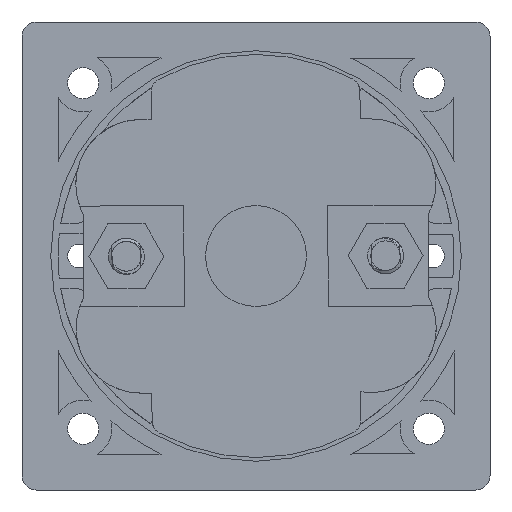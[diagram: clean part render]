
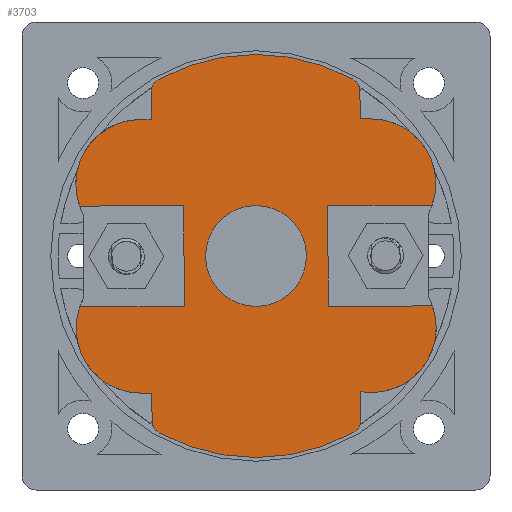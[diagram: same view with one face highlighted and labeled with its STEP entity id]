
A CAD part, front view. The second image highlights one B-rep face of the part: STEP entity #3703.
In plain terms, the highlighted planar face has unit normal (0, -1, 0).
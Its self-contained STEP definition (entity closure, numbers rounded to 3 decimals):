
#684=FACE_BOUND('',#8037,.T.);
#685=FACE_BOUND('',#8038,.T.);
#3703=ADVANCED_FACE('',(#684,#685),#4820,.F.);
#4820=PLANE('',#32896);
#8037=EDGE_LOOP('',(#16888,#16889,#16890,#16891,#16892,#16893,#16894,#16895,
#16896,#16897,#16898,#16899,#16900,#16901,#16902,#16903,#16904,#16905,#16906,
#16907,#16908,#16909,#16910,#16911,#16912));
#8038=EDGE_LOOP('',(#16913));
#8461=CIRCLE('',#30743,2.);
#8463=CIRCLE('',#30746,28.);
#8466=CIRCLE('',#30750,2.);
#8469=CIRCLE('',#30759,2.);
#8471=CIRCLE('',#30762,28.);
#8474=CIRCLE('',#30766,2.);
#9375=CIRCLE('',#32796,9.);
#9378=CIRCLE('',#32802,9.);
#9379=CIRCLE('',#32805,9.);
#9381=CIRCLE('',#32809,8.96);
#9383=CIRCLE('',#32813,9.);
#9403=CIRCLE('',#32886,7.);
#16888=ORIENTED_EDGE('',*,*,#25474,.F.);
#16889=ORIENTED_EDGE('',*,*,#25035,.T.);
#16890=ORIENTED_EDGE('',*,*,#25038,.T.);
#16891=ORIENTED_EDGE('',*,*,#21982,.T.);
#16892=ORIENTED_EDGE('',*,*,#21981,.T.);
#16893=ORIENTED_EDGE('',*,*,#21977,.T.);
#16894=ORIENTED_EDGE('',*,*,#21974,.T.);
#16895=ORIENTED_EDGE('',*,*,#21945,.T.);
#16896=ORIENTED_EDGE('',*,*,#25041,.T.);
#16897=ORIENTED_EDGE('',*,*,#25044,.T.);
#16898=ORIENTED_EDGE('',*,*,#25047,.T.);
#16899=ORIENTED_EDGE('',*,*,#25481,.F.);
#16900=ORIENTED_EDGE('',*,*,#25476,.F.);
#16901=ORIENTED_EDGE('',*,*,#25482,.F.);
#16902=ORIENTED_EDGE('',*,*,#25021,.T.);
#16903=ORIENTED_EDGE('',*,*,#25024,.T.);
#16904=ORIENTED_EDGE('',*,*,#21903,.T.);
#16905=ORIENTED_EDGE('',*,*,#21902,.T.);
#16906=ORIENTED_EDGE('',*,*,#21898,.T.);
#16907=ORIENTED_EDGE('',*,*,#21895,.T.);
#16908=ORIENTED_EDGE('',*,*,#21865,.T.);
#16909=ORIENTED_EDGE('',*,*,#25026,.T.);
#16910=ORIENTED_EDGE('',*,*,#25030,.T.);
#16911=ORIENTED_EDGE('',*,*,#25473,.F.);
#16912=ORIENTED_EDGE('',*,*,#25468,.F.);
#16913=ORIENTED_EDGE('',*,*,#25467,.F.);
#18817=VERTEX_POINT('',#41596);
#18818=VERTEX_POINT('',#41598);
#18843=VERTEX_POINT('',#41651);
#18846=VERTEX_POINT('',#41659);
#18848=VERTEX_POINT('',#41665);
#18851=VERTEX_POINT('',#41673);
#18885=VERTEX_POINT('',#41758);
#18886=VERTEX_POINT('',#41760);
#18911=VERTEX_POINT('',#41812);
#18914=VERTEX_POINT('',#41820);
#18916=VERTEX_POINT('',#41826);
#18919=VERTEX_POINT('',#41834);
#20922=VERTEX_POINT('',#106243);
#20923=VERTEX_POINT('',#106245);
#20925=VERTEX_POINT('',#106253);
#20928=VERTEX_POINT('',#106261);
#20931=VERTEX_POINT('',#106277);
#20932=VERTEX_POINT('',#106279);
#20935=VERTEX_POINT('',#106295);
#20937=VERTEX_POINT('',#106307);
#20939=VERTEX_POINT('',#106313);
#21227=VERTEX_POINT('',#134694);
#21228=VERTEX_POINT('',#134697);
#21229=VERTEX_POINT('',#134698);
#21232=VERTEX_POINT('',#134713);
#21233=VERTEX_POINT('',#134714);
#21865=EDGE_CURVE('',#18818,#18817,#26342,.T.);
#21895=EDGE_CURVE('',#18843,#18818,#8461,.T.);
#21898=EDGE_CURVE('',#18846,#18843,#8463,.T.);
#21902=EDGE_CURVE('',#18848,#18846,#8466,.T.);
#21903=EDGE_CURVE('',#18851,#18848,#26372,.T.);
#21945=EDGE_CURVE('',#18886,#18885,#26412,.T.);
#21974=EDGE_CURVE('',#18911,#18886,#8469,.T.);
#21977=EDGE_CURVE('',#18914,#18911,#8471,.T.);
#21981=EDGE_CURVE('',#18916,#18914,#8474,.T.);
#21982=EDGE_CURVE('',#18919,#18916,#26441,.T.);
#25021=EDGE_CURVE('',#20923,#20922,#9375,.T.);
#25024=EDGE_CURVE('',#20922,#18851,#27925,.T.);
#25026=EDGE_CURVE('',#18817,#20925,#27927,.T.);
#25030=EDGE_CURVE('',#20925,#20928,#9378,.T.);
#25035=EDGE_CURVE('',#20932,#20931,#9379,.T.);
#25038=EDGE_CURVE('',#20931,#18919,#27933,.T.);
#25041=EDGE_CURVE('',#18885,#20935,#9381,.T.);
#25044=EDGE_CURVE('',#20935,#20937,#27934,.T.);
#25047=EDGE_CURVE('',#20937,#20939,#9383,.T.);
#25467=EDGE_CURVE('',#21227,#21227,#9403,.T.);
#25468=EDGE_CURVE('',#21228,#21229,#28087,.T.);
#25473=EDGE_CURVE('',#21229,#20928,#28092,.T.);
#25474=EDGE_CURVE('',#20932,#21228,#28093,.T.);
#25476=EDGE_CURVE('',#21232,#21233,#28095,.T.);
#25481=EDGE_CURVE('',#21233,#20939,#28100,.T.);
#25482=EDGE_CURVE('',#20923,#21232,#28101,.T.);
#26342=LINE('',#41597,#28551);
#26372=LINE('',#41672,#28581);
#26412=LINE('',#41759,#28621);
#26441=LINE('',#41833,#28650);
#27925=LINE('',#106250,#30134);
#27927=LINE('',#106254,#30136);
#27933=LINE('',#106284,#30142);
#27934=LINE('',#106308,#30143);
#28087=LINE('',#134696,#30296);
#28092=LINE('',#134706,#30301);
#28093=LINE('',#134708,#30302);
#28095=LINE('',#134712,#30304);
#28100=LINE('',#134722,#30309);
#28101=LINE('',#134724,#30310);
#28551=VECTOR('',#33637,1.);
#28581=VECTOR('',#33691,1.);
#28621=VECTOR('',#33739,1.);
#28650=VECTOR('',#33792,1.);
#30134=VECTOR('',#39338,1.);
#30136=VECTOR('',#39342,1.);
#30142=VECTOR('',#39364,1.);
#30143=VECTOR('',#39371,1.);
#30296=VECTOR('',#39678,1.);
#30301=VECTOR('',#39685,1.);
#30302=VECTOR('',#39688,1.);
#30304=VECTOR('',#39694,1.);
#30309=VECTOR('',#39701,1.);
#30310=VECTOR('',#39704,1.);
#30743=AXIS2_PLACEMENT_3D('',#41656,#33671,#33672);
#30746=AXIS2_PLACEMENT_3D('',#41662,#33678,#33679);
#30750=AXIS2_PLACEMENT_3D('',#41670,#33687,#33688);
#30759=AXIS2_PLACEMENT_3D('',#41817,#33772,#33773);
#30762=AXIS2_PLACEMENT_3D('',#41823,#33779,#33780);
#30766=AXIS2_PLACEMENT_3D('',#41831,#33788,#33789);
#32796=AXIS2_PLACEMENT_3D('',#106244,#39331,#39332);
#32802=AXIS2_PLACEMENT_3D('',#106262,#39349,#39350);
#32805=AXIS2_PLACEMENT_3D('',#106278,#39357,#39358);
#32809=AXIS2_PLACEMENT_3D('',#106296,#39367,#39368);
#32813=AXIS2_PLACEMENT_3D('',#106314,#39377,#39378);
#32886=AXIS2_PLACEMENT_3D('',#134693,#39674,#39675);
#32896=AXIS2_PLACEMENT_3D('',#134728,#39710,#39711);
#33637=DIRECTION('',(0.003,0.,-1.));
#33671=DIRECTION('',(0.,-1.,0.));
#33672=DIRECTION('',(1.,0.,0.003));
#33678=DIRECTION('',(0.,-1.,0.));
#33679=DIRECTION('',(1.,0.,0.003));
#33687=DIRECTION('',(0.,-1.,0.));
#33688=DIRECTION('',(1.,0.,0.003));
#33691=DIRECTION('',(-0.003,0.,1.));
#33739=DIRECTION('',(-0.003,0.,1.));
#33772=DIRECTION('',(0.,-1.,0.));
#33773=DIRECTION('',(1.,0.,0.003));
#33779=DIRECTION('',(0.,-1.,0.));
#33780=DIRECTION('',(1.,0.,0.003));
#33788=DIRECTION('',(0.,-1.,0.));
#33789=DIRECTION('',(1.,0.,0.003));
#33792=DIRECTION('',(0.003,0.,-1.));
#39331=DIRECTION('',(0.,-1.,0.));
#39332=DIRECTION('',(1.,0.,0.003));
#39338=DIRECTION('',(-1.,0.,-0.003));
#39342=DIRECTION('',(-1.,0.,-0.003));
#39349=DIRECTION('',(0.,-1.,0.));
#39350=DIRECTION('',(-1.,0.,-0.003));
#39357=DIRECTION('',(0.,-1.,0.));
#39358=DIRECTION('',(-0.89,0.,0.456));
#39364=DIRECTION('',(1.,0.,0.003));
#39367=DIRECTION('',(0.,-1.,0.));
#39368=DIRECTION('',(0.,0.,-1.));
#39371=DIRECTION('',(1.,0.,0.003));
#39377=DIRECTION('',(0.,-1.,0.));
#39378=DIRECTION('',(0.,0.,-1.));
#39674=DIRECTION('',(0.,-1.,0.));
#39675=DIRECTION('',(-1.,0.,-0.003));
#39678=DIRECTION('',(-0.003,0.,1.));
#39685=DIRECTION('',(-1.,0.,-0.003));
#39688=DIRECTION('',(1.,0.,0.003));
#39694=DIRECTION('',(0.003,0.,-1.));
#39701=DIRECTION('',(1.,0.,0.003));
#39704=DIRECTION('',(-1.,0.,-0.003));
#39710=DIRECTION('',(0.,1.,0.));
#39711=DIRECTION('',(0.,0.,1.));
#41596=CARTESIAN_POINT('',(-14.549,-135.1,18.963));
#41597=CARTESIAN_POINT('',(-14.558,-135.1,22.761));
#41598=CARTESIAN_POINT('',(-14.558,-135.1,22.761));
#41651=CARTESIAN_POINT('',(-13.525,-135.1,24.517));
#41656=CARTESIAN_POINT('',(-12.558,-135.1,22.766));
#41659=CARTESIAN_POINT('',(13.398,-135.1,24.586));
#41662=CARTESIAN_POINT('',(0.,-135.1,0.));
#41665=CARTESIAN_POINT('',(14.441,-135.1,22.835));
#41670=CARTESIAN_POINT('',(12.441,-135.1,22.83));
#41672=CARTESIAN_POINT('',(14.451,-135.1,19.037));
#41673=CARTESIAN_POINT('',(14.451,-135.1,19.037));
#41758=CARTESIAN_POINT('',(14.548,-135.1,-18.837));
#41759=CARTESIAN_POINT('',(14.558,-135.1,-22.761));
#41760=CARTESIAN_POINT('',(14.558,-135.1,-22.761));
#41812=CARTESIAN_POINT('',(13.525,-135.1,-24.517));
#41817=CARTESIAN_POINT('',(12.558,-135.1,-22.766));
#41820=CARTESIAN_POINT('',(-13.398,-135.1,-24.586));
#41823=CARTESIAN_POINT('',(0.,-135.1,0.));
#41826=CARTESIAN_POINT('',(-14.441,-135.1,-22.835));
#41831=CARTESIAN_POINT('',(-12.441,-135.1,-22.83));
#41833=CARTESIAN_POINT('',(-14.451,-135.1,-19.037));
#41834=CARTESIAN_POINT('',(-14.451,-135.1,-19.037));
#106243=CARTESIAN_POINT('',(15.951,-135.1,19.041));
#106244=CARTESIAN_POINT('',(15.974,-135.1,10.041));
#106245=CARTESIAN_POINT('',(24.467,-135.1,7.063));
#106250=CARTESIAN_POINT('',(15.951,-135.1,19.041));
#106253=CARTESIAN_POINT('',(-16.049,-135.1,18.959));
#106254=CARTESIAN_POINT('',(-14.549,-135.1,18.963));
#106261=CARTESIAN_POINT('',(-24.503,-135.1,6.937));
#106262=CARTESIAN_POINT('',(-16.026,-135.1,9.959));
#106277=CARTESIAN_POINT('',(-15.951,-135.1,-19.041));
#106278=CARTESIAN_POINT('',(-15.974,-135.1,-10.041));
#106279=CARTESIAN_POINT('',(-24.468,-135.1,-7.063));
#106284=CARTESIAN_POINT('',(23.753,-135.1,-18.934));
#106295=CARTESIAN_POINT('',(15.978,-135.1,-18.959));
#106296=CARTESIAN_POINT('',(16.02,-135.1,-9.999));
#106307=CARTESIAN_POINT('',(16.119,-135.1,-18.958));
#106308=CARTESIAN_POINT('',(23.752,-135.1,-18.938));
#106313=CARTESIAN_POINT('',(24.503,-135.1,-6.937));
#106314=CARTESIAN_POINT('',(16.026,-135.1,-9.959));
#134693=CARTESIAN_POINT('',(0.,-135.1,0.));
#134694=CARTESIAN_POINT('',(-7.,-135.1,-0.018));
#134696=CARTESIAN_POINT('',(-9.982,-135.1,-7.026));
#134697=CARTESIAN_POINT('',(-9.982,-135.1,-7.026));
#134698=CARTESIAN_POINT('',(-10.018,-135.1,6.974));
#134706=CARTESIAN_POINT('',(-10.018,-135.1,6.974));
#134708=CARTESIAN_POINT('',(-34.164,-135.1,-7.088));
#134712=CARTESIAN_POINT('',(9.982,-135.1,7.026));
#134713=CARTESIAN_POINT('',(9.982,-135.1,7.026));
#134714=CARTESIAN_POINT('',(10.018,-135.1,-6.974));
#134722=CARTESIAN_POINT('',(10.018,-135.1,-6.974));
#134724=CARTESIAN_POINT('',(34.164,-135.1,7.088));
#134728=CARTESIAN_POINT('',(23.741,-135.1,-14.593));
